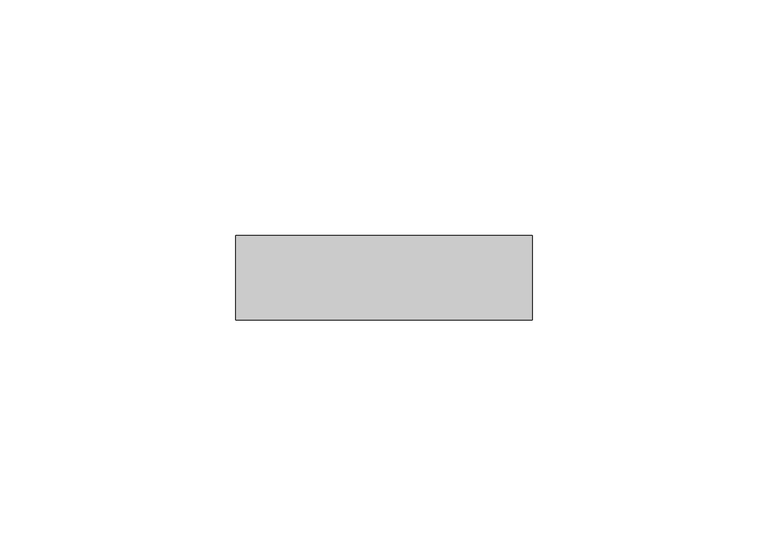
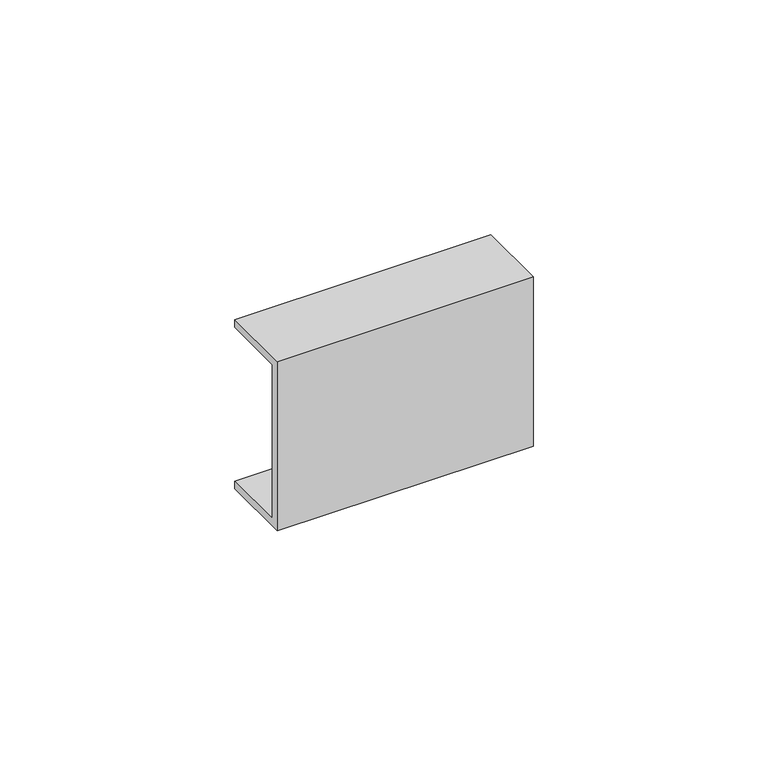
"""IFC4 building model written with IfcOpenShell, lengths in millimetres: proxy geometry, Соединитель_КМС : Соединитель КМС 40x16."""

from ifc_helpers import new_model, si_unit, frame, origin, place, context, project, spatial, polyline, outline, extrude, source, transform, mapped, element, save


def generic_models_47d5b641(model_context):
    return source(origin(), model_context, "Body", "SweptSolid", [
        extrude(outline(polyline([(-18.0, 42.0), (0.0, 42.0), (0.0, 40.0), (-16.0, 40.0), (-16.0, 0.0), (0.0, 0.0), (0.0, -2.0), (-18.0, -2.0), (-18.0, 42.0)])), frame((0.0, 0.0, 0.0), z_axis=(1.0, 0.0, 0.0), x_axis=(0.0, 1.0, 0.0)), (0.0, 0.0, 1.0), 63.0),
    ])


if __name__ == "__main__":
    model = new_model("IFC4")
    model_context = context("Model", 3, world=origin())
    ifc_project = project(units=[si_unit("LENGTHUNIT", "METRE", prefix="MILLI")], contexts=[model_context])
    site = spatial("IfcSite", under=ifc_project)
    building = spatial("IfcBuilding", under=site)
    placement = place(None, origin())
    generic_models_shape = generic_models_47d5b641(model_context)
    element("IfcBuildingElementProxy", 1, Name="Соединитель_КМС : Соединитель КМС 40x16", ObjectType="Соединитель_КМС : Соединитель КМС 40x16", at=placement, inside=building, context=model_context, shape_type="MappedRepresentation", body=[
        mapped(generic_models_shape, transform((0.0, 0.0, 0.0), x_axis=(1.0, 0.0, 0.0), y_axis=(0.0, 1.0, 0.0), z_axis=(0.0, 0.0, 1.0))),
    ])
    save(model, "model.ifc")
